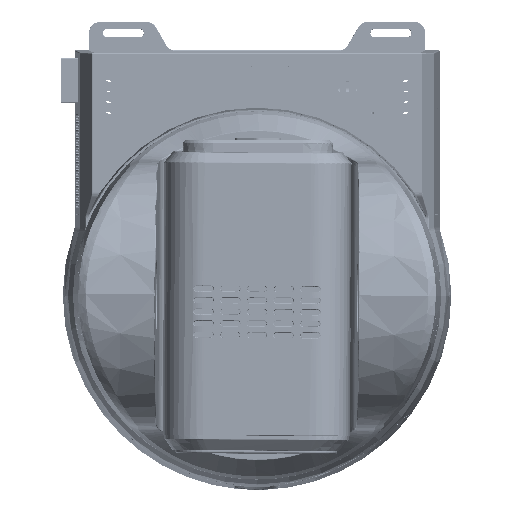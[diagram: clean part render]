
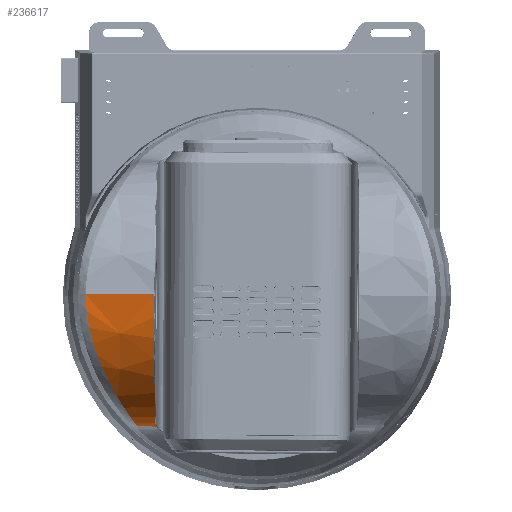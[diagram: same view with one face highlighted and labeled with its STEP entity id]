
A CAD part, top view. The second image highlights one B-rep face of the part: STEP entity #236617.
In plain terms, the highlighted conical face has half-angle 1 degrees and reference radius 74.64 mm.
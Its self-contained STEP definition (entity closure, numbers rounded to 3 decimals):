
#2657=CONICAL_SURFACE('',#262979,74.64,0.017);
#14032=B_SPLINE_CURVE_WITH_KNOTS('',3,(#537019,#537020,#537021,#537022,
#537023,#537024,#537025,#537026,#537027,#537028,#537029,#537030),
 .UNSPECIFIED.,.F.,.F.,(4,2,2,2,2,4),(-4.47,-3.911,
-3.352,-2.232,-1.117,0.),
 .UNSPECIFIED.);
#14033=B_SPLINE_CURVE_WITH_KNOTS('',3,(#537032,#537033,#537034,#537035,
#537036,#537037,#537038,#537039,#537040,#537041,#537042,#537043,#537044,
#537045,#537046,#537047,#537048,#537049),.UNSPECIFIED.,.F.,.F.,(4,2,2,2,
2,2,2,2,4),(-7.252,-5.417,-3.598,-3.142,
-1.552,-0.755,-0.554,-0.263,
0.),.UNSPECIFIED.);
#30498=FACE_OUTER_BOUND('',#49185,.T.);
#49185=EDGE_LOOP('',(#218042,#218043,#218044,#218045,#218046));
#64618=LINE('',#532251,#80239);
#64622=LINE('',#533369,#80243);
#80239=VECTOR('',#330164,10.3);
#80243=VECTOR('',#330174,38.689);
#94624=CIRCLE('',#262865,74.977);
#116091=VERTEX_POINT('',#532196);
#116093=VERTEX_POINT('',#532237);
#116099=VERTEX_POINT('',#532874);
#116104=VERTEX_POINT('',#533356);
#116241=VERTEX_POINT('',#537017);
#149992=EDGE_CURVE('',#116091,#116093,#64618,.T.);
#150000=EDGE_CURVE('',#116099,#116093,#94624,.T.);
#150008=EDGE_CURVE('',#116104,#116099,#64622,.T.);
#150257=EDGE_CURVE('',#116104,#116241,#14032,.T.);
#150258=EDGE_CURVE('',#116241,#116091,#14033,.T.);
#218042=ORIENTED_EDGE('',*,*,#149992,.T.);
#218043=ORIENTED_EDGE('',*,*,#150000,.F.);
#218044=ORIENTED_EDGE('',*,*,#150008,.F.);
#218045=ORIENTED_EDGE('',*,*,#150257,.T.);
#218046=ORIENTED_EDGE('',*,*,#150258,.T.);
#236617=ADVANCED_FACE('',(#30498),#2657,.T.);
#262865=AXIS2_PLACEMENT_3D('',#532911,#330167,#330168);
#262979=AXIS2_PLACEMENT_3D('',#537031,#330539,#330540);
#330164=DIRECTION('',(-1.,0.019,0.));
#330167=DIRECTION('center_axis',(-1.,0.,
0.017));
#330168=DIRECTION('ref_axis',(0.017,0.008,1.));
#330174=DIRECTION('',(-0.999,0.,0.035));
#330539=DIRECTION('center_axis',(-1.,0.,
0.017));
#330540=DIRECTION('ref_axis',(-0.017,0.,-1.));
#532196=CARTESIAN_POINT('',(66.838,74.103,178.139));
#532237=CARTESIAN_POINT('',(56.539,74.293,178.139));
#532251=CARTESIAN_POINT('',(66.838,74.103,178.139));
#532874=CARTESIAN_POINT('',(57.772,0.,248.809));
#532911=CARTESIAN_POINT('Origin',(56.464,-0.561,173.845));
#533356=CARTESIAN_POINT('',(96.438,0.001,247.459));
#533369=CARTESIAN_POINT('',(96.438,0.001,247.459));
#537017=CARTESIAN_POINT('',(86.996,40.94,235.147));
#537019=CARTESIAN_POINT('Ctrl Pts',(96.438,0.001,
247.459));
#537020=CARTESIAN_POINT('Ctrl Pts',(96.422,1.856,247.445));
#537021=CARTESIAN_POINT('Ctrl Pts',(96.348,3.711,247.364));
#537022=CARTESIAN_POINT('Ctrl Pts',(96.082,7.403,247.069));
#537023=CARTESIAN_POINT('Ctrl Pts',(95.89,9.24,246.854));
#537024=CARTESIAN_POINT('Ctrl Pts',(95.159,14.706,246.014));
#537025=CARTESIAN_POINT('Ctrl Pts',(94.467,18.278,245.193));
#537026=CARTESIAN_POINT('Ctrl Pts',(92.768,25.19,243.08));
#537027=CARTESIAN_POINT('Ctrl Pts',(91.761,28.527,241.79));
#537028=CARTESIAN_POINT('Ctrl Pts',(89.517,34.932,238.786));
#537029=CARTESIAN_POINT('Ctrl Pts',(88.277,38.015,237.063));
#537030=CARTESIAN_POINT('Ctrl Pts',(86.994,40.939,235.148));
#537031=CARTESIAN_POINT('Origin',(75.802,-0.561,173.508));
#537032=CARTESIAN_POINT('Ctrl Pts',(86.994,40.939,235.148));
#537033=CARTESIAN_POINT('Ctrl Pts',(84.921,45.65,232.064));
#537034=CARTESIAN_POINT('Ctrl Pts',(82.72,49.981,228.465));
#537035=CARTESIAN_POINT('Ctrl Pts',(78.404,57.681,220.43));
#537036=CARTESIAN_POINT('Ctrl Pts',(76.285,61.092,215.97));
#537037=CARTESIAN_POINT('Ctrl Pts',(73.931,64.71,209.868));
#537038=CARTESIAN_POINT('Ctrl Pts',(73.473,65.403,208.619));
#537039=CARTESIAN_POINT('Ctrl Pts',(71.488,68.347,202.92));
#537040=CARTESIAN_POINT('Ctrl Pts',(70.123,70.211,198.203));
#537041=CARTESIAN_POINT('Ctrl Pts',(68.525,72.262,190.794));
#537042=CARTESIAN_POINT('Ctrl Pts',(68.076,72.812,188.303));
#537043=CARTESIAN_POINT('Ctrl Pts',(67.615,73.338,185.156));
#537044=CARTESIAN_POINT('Ctrl Pts',(67.528,73.435,184.522));
#537045=CARTESIAN_POINT('Ctrl Pts',(67.326,73.653,182.972));
#537046=CARTESIAN_POINT('Ctrl Pts',(67.21,73.77,182.013));
#537047=CARTESIAN_POINT('Ctrl Pts',(67.015,73.96,180.125));
#537048=CARTESIAN_POINT('Ctrl Pts',(66.902,74.049,179.014));
#537049=CARTESIAN_POINT('Ctrl Pts',(66.838,74.103,178.139));
